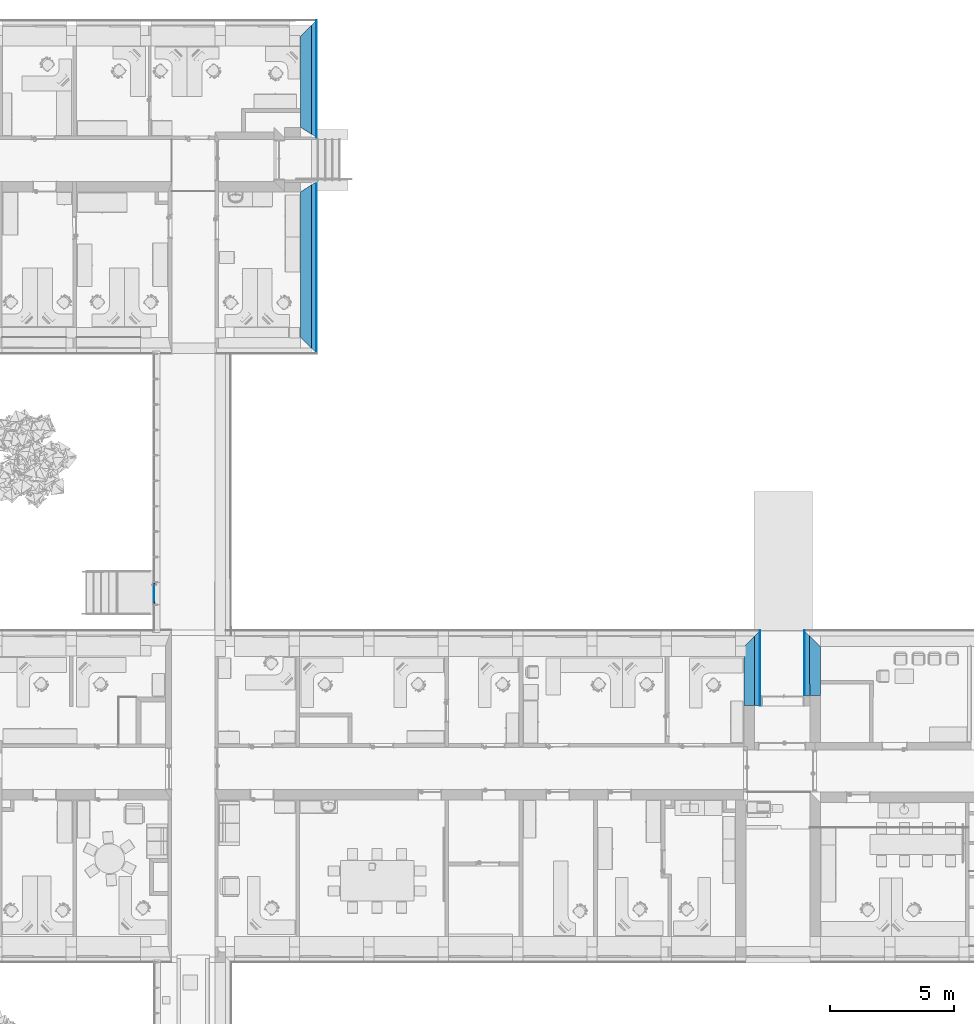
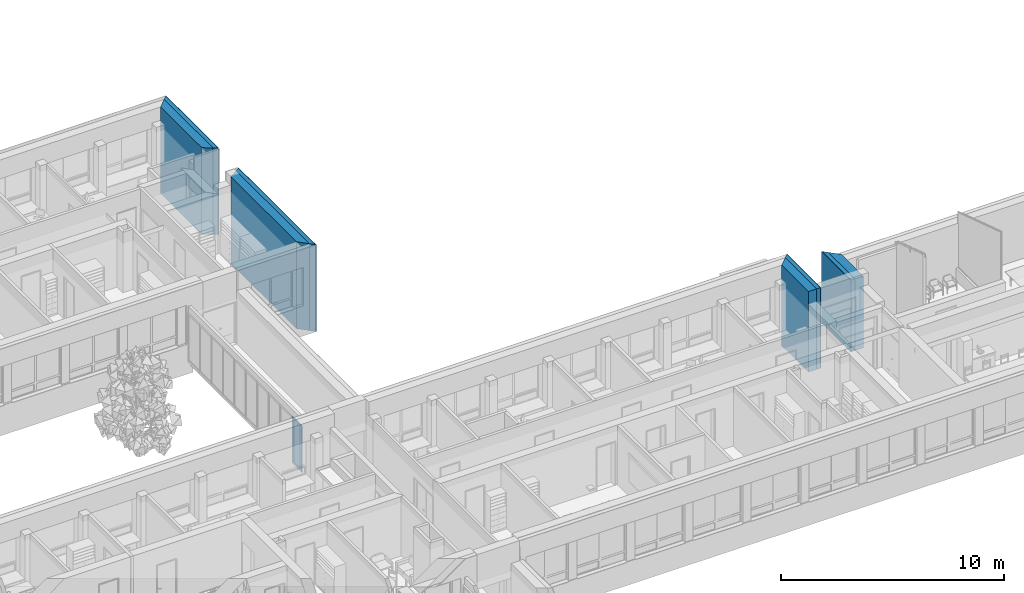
# One storey, part 35 of 194: 14 building element parts, 6 elements without a shape of their own.
"""IFC2X3 building model written with IfcOpenShell, lengths in millimetres."""

from ifc_helpers import new_model, entity, si_unit, converted_unit, derived_unit, money_unit, direction, frame, origin_with_axes, place, context, subcontext, project, spatial, polyline, outline, extrude, faceted_brep, source, transform, mapped, material, type_object, element, aggregate, save


model = new_model("IFC2X3")

# Units and contexts
model_context = context("Model", 3, precision=1e-05, world=origin_with_axes(), true_north=direction((0.0, 1.0)))
body_context = subcontext(model_context, "Body", "Model", "MODEL_VIEW")
ifc_project = project(units=[si_unit("LENGTHUNIT", "METRE", prefix="MILLI"), si_unit("AREAUNIT", "SQUARE_METRE"), si_unit("VOLUMEUNIT", "CUBIC_METRE"), converted_unit("PLANEANGLEUNIT", "DEGREE", entity("IfcPlaneAngleMeasure", 0.0174532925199), si_unit("PLANEANGLEUNIT", "RADIAN"), dimensions=[0, 0, 0, 0, 0, 0, 0]), si_unit("SOLIDANGLEUNIT", "STERADIAN"), money_unit("EUR"), converted_unit("TIMEUNIT", "Year", entity("IfcTimeMeasure", 31556926.0), si_unit("TIMEUNIT", "SECOND"), dimensions=[0, 0, 1, 0, 0, 0, 0]), si_unit("MASSUNIT", "GRAM", prefix="KILO"), si_unit("THERMODYNAMICTEMPERATUREUNIT", "DEGREE_CELSIUS"), si_unit("LUMINOUSINTENSITYUNIT", "LUMEN"), si_unit("ENERGYUNIT", "JOULE", prefix="MEGA"), derived_unit("THERMALCONDUCTANCEUNIT", [(si_unit("POWERUNIT", "WATT"), 1), (si_unit("LENGTHUNIT", "METRE"), -1), (si_unit("THERMODYNAMICTEMPERATUREUNIT", "KELVIN"), -1)]), derived_unit("SPECIFICHEATCAPACITYUNIT", [(si_unit("ENERGYUNIT", "JOULE"), 1), (si_unit("MASSUNIT", "GRAM", prefix="KILO"), -1), (si_unit("THERMODYNAMICTEMPERATUREUNIT", "KELVIN"), -1)]), derived_unit("MASSDENSITYUNIT", [(si_unit("MASSUNIT", "GRAM", prefix="KILO"), 1), (si_unit("VOLUMEUNIT", "CUBIC_METRE"), -1)])], contexts=[model_context])

# Site, building, storey
site_placement = place(None, origin_with_axes())
site = spatial("IfcSite", under=ifc_project, at=site_placement, Name="Site", CompositionType="ELEMENT")
building_placement = place(site_placement, origin_with_axes())
building = spatial("IfcBuilding", under=site, at=building_placement, Name="Building", CompositionType="ELEMENT")
storey_placement = place(building_placement, frame((0.0, 0.0, 3000.0), z_axis=(0.0, 0.0, 1.0), x_axis=(1.0, 0.0, 0.0)))
storey = spatial("IfcBuildingStorey", under=building, at=storey_placement, Name="2 KORRUS", CompositionType="ELEMENT", Elevation=3000.0)

# Curtain wall, door, building element parts
curtain_wall_type = type_object("IfcCurtainWallType", Name="KS-1", PredefinedType="NOTDEFINED")
curtain_wall_placement = place(storey_placement, frame((37274.747914, 58173.7882895, -0.000166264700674), z_axis=(0.0, 0.0, 1.0), x_axis=(1.0, 0.0, 0.0)))
curtain_wall = element("IfcCurtainWall", 1, at=curtain_wall_placement, inside=storey, type_object=curtain_wall_type, Name="KS")
door_style = type_object("IfcDoorStyle", Name="Distinct Panel 900 x 30 x 20", ConstructionType="NOTDEFINED", OperationType="NOTDEFINED", ParameterTakesPrecedence=False, Sizeable=False)
door_placement = place(curtain_wall_placement, frame((0.0, -9162.5, 1250.00017528), z_axis=(0.0, 0.0, 1.0), x_axis=(0.0, -1.0, 0.0)))
door = element("IfcDoor", 2, at=door_placement, type_object=door_style, Name="Välisuks * CW Door 22")
aggregate(curtain_wall, [door])
shared_shape_1 = source(origin_with_axes(), body_context, "Body", "Brep", [
    faceted_brep([(-875.000010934, 0.0, -35.0), (-875.000010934, 0.0, -30.0), (-875.000010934, 2500.00035055, -30.0), (-875.000010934, 2500.00035055, -35.0), (-830.000010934, 0.0, -35.0), (-830.000010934, 0.0, -30.0), (-830.000010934, 2455.00035055, -30.0), (-830.000010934, 2455.00035055, -35.0)], [[[0, 1, 2, 3]], [[4, 5, 1, 0]], [[1, 5, 6, 2]], [[3, 2, 6, 7]], [[0, 3, 7, 4]], [[7, 6, 5, 4]]]),
    faceted_brep([(-25.0000035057, 2500.00035055, -35.0), (-25.0000035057, 2500.00035055, -30.0), (-70.0000035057, 2455.00035055, -30.0), (-70.0000035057, 2455.00035055, -35.0), (-875.000010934, 2500.00035055, -35.0), (-875.000010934, 2500.00035055, -30.0), (-830.000010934, 2455.00035055, -30.0), (-830.000010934, 2455.00035055, -35.0)], [[[0, 1, 2, 3]], [[4, 5, 1, 0]], [[1, 5, 6, 2]], [[3, 2, 6, 7]], [[0, 3, 7, 4]], [[7, 6, 5, 4]]]),
    faceted_brep([(-25.0000035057, 0.0, -35.0), (-25.0000035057, 0.0, -30.0), (-70.0000035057, 0.0, -30.0), (-70.0000035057, 0.0, -35.0), (-25.0000035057, 2500.00035055, -35.0), (-25.0000035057, 2500.00035055, -30.0), (-70.0000035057, 2455.00035055, -30.0), (-70.0000035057, 2455.00035055, -35.0)], [[[0, 1, 2, 3]], [[4, 5, 1, 0]], [[1, 5, 6, 2]], [[3, 2, 6, 7]], [[0, 3, 7, 4]], [[7, 6, 5, 4]]]),
    faceted_brep([(-875.000010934, 0.0, -30.0), (-875.000010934, 0.0, 20.0), (-875.000010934, 2500.00035055, 20.0), (-875.000010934, 2500.00035055, -30.0), (-855.000010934, 0.0, -30.0), (-855.000010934, 0.0, 20.0), (-855.000010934, 2480.00035055, 20.0), (-855.000010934, 2480.00035055, -30.0)], [[[0, 1, 2, 3]], [[4, 5, 1, 0]], [[1, 5, 6, 2]], [[3, 2, 6, 7]], [[0, 3, 7, 4]], [[7, 6, 5, 4]]]),
    faceted_brep([(-25.0000035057, 2500.00035055, -30.0), (-25.0000035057, 2500.00035055, 20.0), (-45.0000035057, 2480.00035055, 20.0), (-45.0000035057, 2480.00035055, -30.0), (-875.000010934, 2500.00035055, -30.0), (-875.000010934, 2500.00035055, 20.0), (-855.000010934, 2480.00035055, 20.0), (-855.000010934, 2480.00035055, -30.0)], [[[0, 1, 2, 3]], [[4, 5, 1, 0]], [[1, 5, 6, 2]], [[3, 2, 6, 7]], [[0, 3, 7, 4]], [[7, 6, 5, 4]]]),
    faceted_brep([(-25.0000035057, 0.0, -30.0), (-25.0000035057, 0.0, 20.0), (-45.0000035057, 0.0, 20.0), (-45.0000035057, 0.0, -30.0), (-25.0000035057, 2500.00035055, -30.0), (-25.0000035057, 2500.00035055, 20.0), (-45.0000035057, 2480.00035055, 20.0), (-45.0000035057, 2480.00035055, -30.0)], [[[0, 1, 2, 3]], [[4, 5, 1, 0]], [[1, 5, 6, 2]], [[3, 2, 6, 7]], [[0, 3, 7, 4]], [[7, 6, 5, 4]]]),
    faceted_brep([(5.00000000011, -30.0, -10.0), (5.00000000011, -30.0, 10.0), (-905.000000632, -30.0, 10.0), (-905.000000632, -30.0, -10.0), (-25.0000035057, 0.0, -10.0), (-25.0000035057, 0.0, 10.0), (-875.000010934, 0.0, 10.0), (-875.000010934, 0.0, -10.0)], [[[0, 1, 2, 3]], [[4, 5, 1, 0]], [[1, 5, 6, 2]], [[3, 2, 6, 7]], [[0, 3, 7, 4]], [[7, 6, 5, 4]]]),
    faceted_brep([(-905.000000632, -30.0, -10.0), (-905.000000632, -30.0, 10.0), (-905.000000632, 2530.00035055, 10.0), (-905.000000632, 2530.00035055, -10.0), (-875.000010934, 0.0, -10.0), (-875.000010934, 0.0, 10.0), (-875.000010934, 2500.00035055, 10.0), (-875.000010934, 2500.00035055, -10.0)], [[[0, 1, 2, 3]], [[4, 5, 1, 0]], [[1, 5, 6, 2]], [[3, 2, 6, 7]], [[0, 3, 7, 4]], [[7, 6, 5, 4]]]),
    faceted_brep([(-905.000000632, 2530.00035055, -10.0), (-905.000000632, 2530.00035055, 10.0), (5.00000000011, 2530.00035055, 10.0), (5.00000000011, 2530.00035055, -10.0), (-875.000010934, 2500.00035055, -10.0), (-875.000010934, 2500.00035055, 10.0), (-25.0000035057, 2500.00035055, 10.0), (-25.0000035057, 2500.00035055, -10.0)], [[[0, 1, 2, 3]], [[4, 5, 1, 0]], [[1, 5, 6, 2]], [[3, 2, 6, 7]], [[0, 3, 7, 4]], [[7, 6, 5, 4]]]),
    faceted_brep([(5.00000000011, 2530.00035055, -10.0), (5.00000000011, 2530.00035055, 10.0), (5.00000000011, -30.0, 10.0), (5.00000000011, -30.0, -10.0), (-25.0000035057, 2500.00035055, -10.0), (-25.0000035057, 2500.00035055, 10.0), (-25.0000035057, 0.0, 10.0), (-25.0000035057, 0.0, -10.0)], [[[0, 1, 2, 3]], [[4, 5, 1, 0]], [[1, 5, 6, 2]], [[3, 2, 6, 7]], [[0, 3, 7, 4]], [[7, 6, 5, 4]]]),
    faceted_brep([(-165.000003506, 120.0, -30.0), (-165.000003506, 120.0, 20.0), (-165.000003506, 2360.00035055, 20.0), (-165.000003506, 2360.00035055, -30.0), (-45.0000035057, 0.0, -30.0), (-45.0000035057, 0.0, 20.0), (-45.0000035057, 2480.00035055, 20.0), (-45.0000035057, 2480.00035055, -30.0)], [[[0, 1, 2, 3]], [[4, 5, 1, 0]], [[1, 5, 6, 2]], [[3, 2, 6, 7]], [[0, 3, 7, 4]], [[7, 6, 5, 4]]]),
    faceted_brep([(-855.000010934, 0.0, -30.0), (-855.000010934, 0.0, 20.0), (-855.000010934, 2480.00035055, 20.0), (-855.000010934, 2480.00035055, -30.0), (-735.000010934, 120.0, -30.0), (-735.000010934, 120.0, 20.0), (-735.000010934, 2360.00035055, 20.0), (-735.000010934, 2360.00035055, -30.0)], [[[0, 1, 2, 3]], [[4, 5, 1, 0]], [[1, 5, 6, 2]], [[3, 2, 6, 7]], [[0, 3, 7, 4]], [[7, 6, 5, 4]]]),
    faceted_brep([(-855.000010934, 0.0, -30.0), (-855.000010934, 0.0, 20.0), (-735.000010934, 120.0, 20.0), (-735.000010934, 120.0, -30.0), (-45.0000035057, 0.0, -30.0), (-45.0000035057, 0.0, 20.0), (-165.000003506, 120.0, 20.0), (-165.000003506, 120.0, -30.0)], [[[0, 1, 2, 3]], [[4, 5, 1, 0]], [[1, 5, 6, 2]], [[3, 2, 6, 7]], [[0, 3, 7, 4]], [[7, 6, 5, 4]]]),
    faceted_brep([(-45.0000035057, 2480.00035055, -30.0), (-45.0000035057, 2480.00035055, 20.0), (-165.000003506, 2360.00035055, 20.0), (-165.000003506, 2360.00035055, -30.0), (-855.000010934, 2480.00035055, -30.0), (-855.000010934, 2480.00035055, 20.0), (-735.000010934, 2360.00035055, 20.0), (-735.000010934, 2360.00035055, -30.0)], [[[0, 1, 2, 3]], [[4, 5, 1, 0]], [[1, 5, 6, 2]], [[3, 2, 6, 7]], [[0, 3, 7, 4]], [[7, 6, 5, 4]]]),
])
building_element_part_1_placement = place(door_placement, origin_with_axes())
building_element_part_1 = element("IfcBuildingElementPart", 3, at=building_element_part_1_placement, context=body_context, shape_type="MappedRepresentation", body=[
    mapped(shared_shape_1, transform((450.000000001, 0.0, -1250.00017528), x_axis=(1.0, 0.0, 0.0), y_axis=(0.0, 0.0, 1.0), z_axis=(0.0, -1.0, 0.0))),
])
shared_shape_2 = source(origin_with_axes(), body_context, "Body", "Brep", [
    faceted_brep([(-165.000003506, 120.0, -6.0), (-165.000003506, 120.0, 10.0), (-735.000010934, 120.0, 10.0), (-735.000010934, 120.0, -6.0), (-165.000003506, 2360.00035055, -6.0), (-165.000003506, 2360.00035055, 10.0), (-735.000010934, 2360.00035055, 10.0), (-735.000010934, 2360.00035055, -6.0)], [[[0, 1, 2, 3]], [[4, 5, 1, 0]], [[1, 5, 6, 2]], [[3, 2, 6, 7]], [[0, 3, 7, 4]], [[7, 6, 5, 4]]]),
])
building_element_part_2_placement = place(door_placement, origin_with_axes())
building_element_part_2 = element("IfcBuildingElementPart", 4, at=building_element_part_2_placement, context=body_context, shape_type="MappedRepresentation", body=[
    mapped(shared_shape_2, transform((450.000000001, 0.0, -1250.00017528), x_axis=(1.0, 0.0, 0.0), y_axis=(0.0, 0.0, 1.0), z_axis=(0.0, -1.0, 0.0))),
])
aggregate(door, [building_element_part_1, building_element_part_2])

# Wall, building element parts
wall_type = type_object("IfcWallType", Name="VS4", PredefinedType="NOTDEFINED")
wall_1_placement = place(storey_placement, frame((43621.3141912, 71922.5424975, -750.0), z_axis=(0.0, 0.0, 1.0), x_axis=(0.000426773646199, -0.999999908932, 0.0)))
wall_1 = element("IfcWall", 5, at=wall_1_placement, inside=storey, type_object=wall_type, Name="VS4")
ifc_material_1 = material(Name="Tellis - Konstuktsioon")
building_element_part_3_placement = place(wall_1_placement, origin_with_axes())
building_element_part_3 = element("IfcBuildingElementPart", 6, at=building_element_part_3_placement, material=ifc_material_1, Name="Tellis - Konstuktsioon", context=body_context, shape_type="SweptSolid", body=[
    extrude(outline(polyline([(429.89851127, -430.0), (4106.49094478, -430.0), (4384.25642445, -1.13686837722e-10), (0.0, -1.13686837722e-10), (429.89851127, -430.0)])), origin_with_axes(), (0.0, 0.0, 1.0), 4730.0),
])
ifc_material_2 = material(Name="Soojustus - Plastik Kõva")
building_element_part_4_placement = place(wall_1_placement, origin_with_axes())
building_element_part_4 = element("IfcBuildingElementPart", 7, at=building_element_part_4_placement, material=ifc_material_2, Name="Soojustus - Plastik Kõva", context=body_context, shape_type="SweptSolid", body=[
    extrude(outline(polyline([(0.0, -1.13686837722e-10), (4384.25642445, -1.13686837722e-10), (4513.4496708, 200.0), (-199.95279594, 200.0), (0.0, -1.13686837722e-10)])), origin_with_axes(), (0.0, 0.0, 1.0), 4730.0),
])
ifc_material_3 = material(Name="Tellis - Viimistlus")
building_element_part_5_placement = place(wall_1_placement, origin_with_axes())
building_element_part_5 = element("IfcBuildingElementPart", 8, at=building_element_part_5_placement, material=ifc_material_3, Name="Tellis - Viimistlus", context=body_context, shape_type="SweptSolid", body=[
    extrude(outline(polyline([(-199.95279594, 200.0), (4513.4496708, 200.0), (4526.36899544, 220.0), (-219.948075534, 220.0), (-199.95279594, 200.0)])), origin_with_axes(), (0.0, 0.0, 1.0), 4730.0),
])
aggregate(wall_1, [building_element_part_3, building_element_part_4, building_element_part_5])

wall_2_placement = place(storey_placement, frame((61502.1698434, 47302.325893, -400.0), z_axis=(0.0, 0.0, 1.0), x_axis=(0.0, -1.0, 0.0)))
wall_2 = element("IfcWall", 9, at=wall_2_placement, inside=storey, type_object=wall_type, Name="VS4")
building_element_part_6_placement = place(wall_2_placement, origin_with_axes())
building_element_part_6 = element("IfcBuildingElementPart", 10, at=building_element_part_6_placement, material=ifc_material_1, Name="Tellis - Konstuktsioon", context=body_context, shape_type="SweptSolid", body=[
    extrude(outline(polyline([(430.0, -430.0), (2815.47193229, -430.0), (2815.47193229, 0.0), (9.09494701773e-10, 0.0), (430.0, -430.0)])), origin_with_axes(), (0.0, 0.0, 1.0), 4400.0),
])
building_element_part_7_placement = place(wall_2_placement, origin_with_axes())
building_element_part_7 = element("IfcBuildingElementPart", 11, at=building_element_part_7_placement, material=ifc_material_2, Name="Soojustus - Plastik Kõva", context=body_context, shape_type="SweptSolid", body=[
    extrude(outline(polyline([(9.09494701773e-10, 0.0), (2815.47193229, 0.0), (2815.47193229, 200.0), (-199.999999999, 200.0), (9.09494701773e-10, 0.0)])), origin_with_axes(), (0.0, 0.0, 1.0), 4400.0),
])
building_element_part_8_placement = place(wall_2_placement, origin_with_axes())
building_element_part_8 = element("IfcBuildingElementPart", 12, at=building_element_part_8_placement, material=ifc_material_3, Name="Tellis - Viimistlus", context=body_context, shape_type="SweptSolid", body=[
    extrude(outline(polyline([(-199.999999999, 200.0), (2815.47193229, 200.0), (2815.47193229, 220.0), (-219.999999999, 220.0), (-199.999999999, 200.0)])), origin_with_axes(), (0.0, 0.0, 1.0), 4400.0),
])
aggregate(wall_2, [building_element_part_6, building_element_part_7, building_element_part_8])

wall_3_placement = place(storey_placement, frame((43623.3672729, 65210.0283559, -769.162035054), z_axis=(0.0, 0.0, 1.0), x_axis=(0.000426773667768, -0.999999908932, 0.0)))
wall_3 = element("IfcWall", 13, at=wall_3_placement, inside=storey, type_object=wall_type, Name="VS4")
building_element_part_9_placement = place(wall_3_placement, origin_with_axes())
building_element_part_9 = element("IfcBuildingElementPart", 14, at=building_element_part_9_placement, material=ifc_material_1, Name="Tellis - Konstuktsioon", context=body_context, shape_type="SweptSolid", body=[
    extrude(outline(polyline([(-0.183512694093, -430.0), (5870.20321459, -430.0), (6300.32605335, 0.0), (-277.846179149, 0.0), (-0.183512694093, -430.0)])), origin_with_axes(), (0.0, 0.0, 1.0), 4749.16203505),
])
building_element_part_10_placement = place(wall_3_placement, origin_with_axes())
building_element_part_10 = element("IfcBuildingElementPart", 15, at=building_element_part_10_placement, material=ifc_material_2, Name="Soojustus - Plastik Kõva", context=body_context, shape_type="SweptSolid", body=[
    extrude(outline(polyline([(-277.846179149, 0.0), (6300.32605335, 0.0), (6500.38318765, 200.0), (-406.991605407, 200.0), (-277.846179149, 0.0)])), origin_with_axes(), (0.0, 0.0, 1.0), 4749.16203505),
])
building_element_part_11_placement = place(wall_3_placement, origin_with_axes())
building_element_part_11 = element("IfcBuildingElementPart", 16, at=building_element_part_11_placement, material=ifc_material_3, Name="Tellis - Viimistlus", context=body_context, shape_type="SweptSolid", body=[
    extrude(outline(polyline([(-406.991605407, 200.0), (6500.38318765, 200.0), (6520.38890108, 220.0), (-419.906148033, 220.0), (-406.991605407, 200.0)])), origin_with_axes(), (0.0, 0.0, 1.0), 4749.16203505),
])
aggregate(wall_3, [building_element_part_9, building_element_part_10, building_element_part_11])

wall_4_placement = place(storey_placement, frame((63723.0206804, 47302.325893, -400.0), z_axis=(0.0, 0.0, 1.0), x_axis=(0.00152735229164, -0.999998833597, 0.0)))
wall_4 = element("IfcWall", 17, at=wall_4_placement, inside=storey, type_object=wall_type, Name="VS4")
building_element_part_12_placement = place(wall_4_placement, origin_with_axes())
building_element_part_12 = element("IfcBuildingElementPart", 18, at=building_element_part_12_placement, material=ifc_material_1, Name="Tellis - Konstuktsioon", context=body_context, shape_type="SweptSolid", body=[
    extrude(outline(polyline([(9.09494701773e-10, 0.0), (2402.47179102, -1.13686837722e-10), (2402.47179102, 430.0), (430.657263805, 430.0), (9.09494701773e-10, 0.0)])), origin_with_axes(), (0.0, 0.0, 1.0), 3915.0),
])
building_element_part_13_placement = place(wall_4_placement, origin_with_axes())
building_element_part_13 = element("IfcBuildingElementPart", 19, at=building_element_part_13_placement, material=ifc_material_2, Name="Soojustus - Plastik Kõva", context=body_context, shape_type="SweptSolid", body=[
    extrude(outline(polyline([(-200.305704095, -200.0), (2402.47179102, -200.0), (2402.47179102, -1.13686837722e-10), (9.09494701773e-10, 0.0), (-200.305704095, -200.0)])), origin_with_axes(), (0.0, 0.0, 1.0), 3915.0),
])
building_element_part_14_placement = place(wall_4_placement, origin_with_axes())
building_element_part_14 = element("IfcBuildingElementPart", 20, at=building_element_part_14_placement, material=ifc_material_3, Name="Tellis - Viimistlus", context=body_context, shape_type="SweptSolid", body=[
    extrude(outline(polyline([(-220.336274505, -220.0), (2402.47179102, -220.0), (2402.47179102, -200.0), (-200.305704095, -200.0), (-220.336274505, -220.0)])), origin_with_axes(), (0.0, 0.0, 1.0), 3915.0),
])
aggregate(wall_4, [building_element_part_12, building_element_part_13, building_element_part_14])

save(model, "model.ifc")
